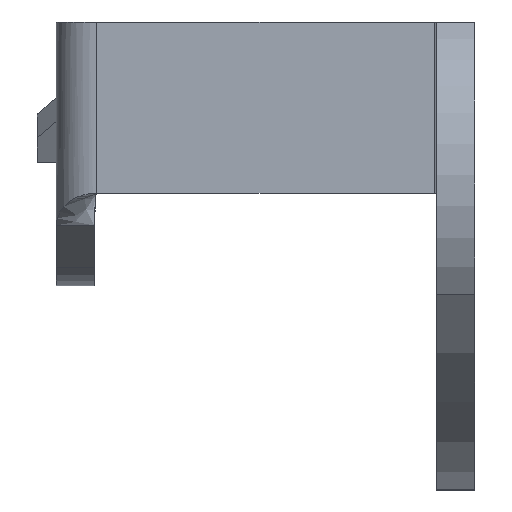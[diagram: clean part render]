
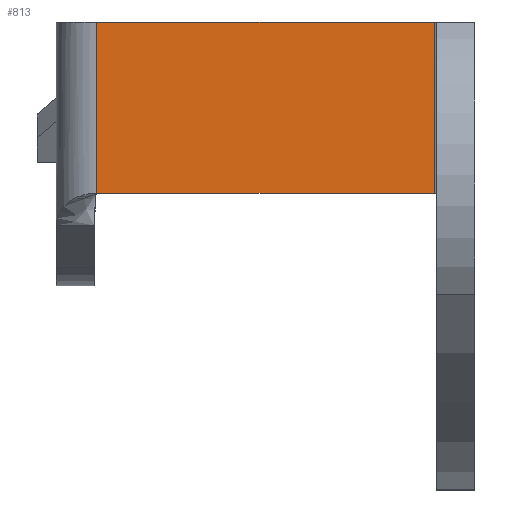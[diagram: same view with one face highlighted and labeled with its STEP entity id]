
A CAD part, left-side view. The second image highlights one B-rep face of the part: STEP entity #813.
In plain terms, the highlighted planar face has unit normal (-1, 0, 0).
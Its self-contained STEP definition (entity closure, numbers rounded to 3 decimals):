
#1 = CARTESIAN_POINT ( 'NONE',  ( -25.5, -40., 12. ) ) ;
#6 = CARTESIAN_POINT ( 'NONE',  ( -25.5, 0., 30. ) ) ;
#18 = EDGE_CURVE ( 'NONE', #1099, #551, #186, .T. ) ;
#43 = CARTESIAN_POINT ( 'NONE',  ( -25.5, -0.25, 30. ) ) ;
#64 = VECTOR ( 'NONE', #379, 1000. ) ;
#98 = CARTESIAN_POINT ( 'NONE',  ( -25.5, -35.75, 30. ) ) ;
#109 = DIRECTION ( 'NONE',  ( 0., 0., -1. ) ) ;
#181 = VECTOR ( 'NONE', #426, 1000. ) ;
#186 = LINE ( 'NONE', #401, #181 ) ;
#192 = CARTESIAN_POINT ( 'NONE',  ( -25.5, -35.75, 12. ) ) ;
#297 = LINE ( 'NONE', #6, #504 ) ;
#379 = DIRECTION ( 'NONE',  ( 0., 1., 0. ) ) ;
#387 = VECTOR ( 'NONE', #109, 1000. ) ;
#401 = CARTESIAN_POINT ( 'NONE',  ( -25.5, -0.25, 30. ) ) ;
#405 = CARTESIAN_POINT ( 'NONE',  ( -25.5, -0.25, 12. ) ) ;
#426 = DIRECTION ( 'NONE',  ( 0., 0., -1. ) ) ;
#435 = LINE ( 'NONE', #98, #387 ) ;
#504 = VECTOR ( 'NONE', #573, 1000. ) ;
#551 = VERTEX_POINT ( 'NONE', #405 ) ;
#573 = DIRECTION ( 'NONE',  ( 0., -1., 0. ) ) ;
#639 = EDGE_CURVE ( 'NONE', #872, #551, #1181, .T. ) ;
#662 = EDGE_CURVE ( 'NONE', #932, #872, #435, .T. ) ;
#694 = EDGE_CURVE ( 'NONE', #1099, #932, #297, .T. ) ;
#701 = AXIS2_PLACEMENT_3D ( 'NONE', #1030, #1144, #1148 ) ;
#730 = EDGE_LOOP ( 'NONE', ( #1000, #1021, #1027, #1032 ) ) ;
#801 = CARTESIAN_POINT ( 'NONE',  ( -25.5, -35.75, 30. ) ) ;
#813 = ADVANCED_FACE ( 'NONE', ( #1048 ), #1074, .F. ) ;
#872 = VERTEX_POINT ( 'NONE', #192 ) ;
#932 = VERTEX_POINT ( 'NONE', #801 ) ;
#1000 = ORIENTED_EDGE ( 'NONE', *, *, #639, .F. ) ;
#1021 = ORIENTED_EDGE ( 'NONE', *, *, #662, .F. ) ;
#1027 = ORIENTED_EDGE ( 'NONE', *, *, #694, .F. ) ;
#1030 = CARTESIAN_POINT ( 'NONE',  ( -25.5, 0., 30. ) ) ;
#1032 = ORIENTED_EDGE ( 'NONE', *, *, #18, .T. ) ;
#1048 = FACE_OUTER_BOUND ( 'NONE', #730, .T. ) ;
#1074 = PLANE ( 'NONE',  #701 ) ;
#1099 = VERTEX_POINT ( 'NONE', #43 ) ;
#1144 = DIRECTION ( 'NONE',  ( 1., 0., 0. ) ) ;
#1148 = DIRECTION ( 'NONE',  ( 0., 1., 0. ) ) ;
#1181 = LINE ( 'NONE', #1, #64 ) ;
